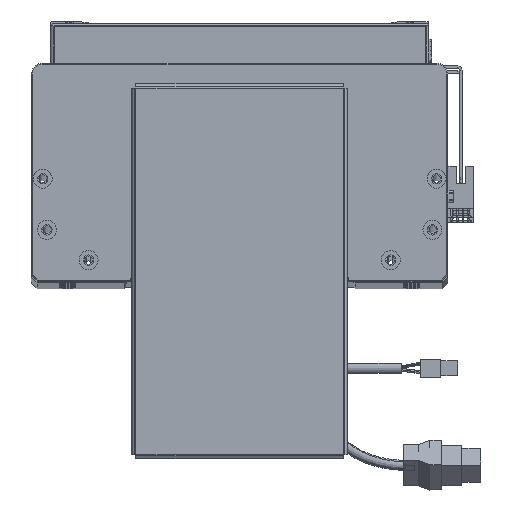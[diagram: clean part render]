
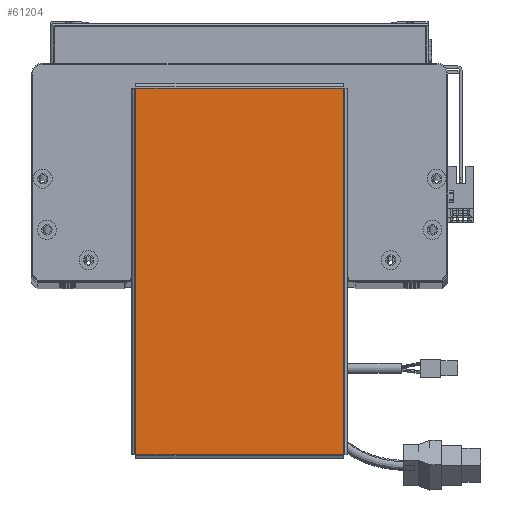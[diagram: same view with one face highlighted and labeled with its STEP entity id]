
A CAD part, top view. The second image highlights one B-rep face of the part: STEP entity #61204.
In plain terms, the highlighted planar face has unit normal (0, 0, 1).
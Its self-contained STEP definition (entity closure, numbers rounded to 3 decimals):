
#1567 = LINE ( 'NONE', #25578, #49623 ) ;
#2521 = LINE ( 'NONE', #67591, #40420 ) ;
#3527 = VECTOR ( 'NONE', #22033, 1000. ) ;
#3968 = CARTESIAN_POINT ( 'NONE',  ( -96.763, 54.763, 0. ) ) ;
#5309 = DIRECTION ( 'NONE',  ( 1., 0., 0. ) ) ;
#6095 = EDGE_CURVE ( 'NONE', #68899, #69286, #2521, .T. ) ;
#7676 = EDGE_CURVE ( 'NONE', #64547, #24777, #1567, .T. ) ;
#8655 = FACE_OUTER_BOUND ( 'NONE', #14939, .T. ) ;
#9342 = DIRECTION ( 'NONE',  ( 0., -1., 0. ) ) ;
#10551 = LINE ( 'NONE', #49298, #50111 ) ;
#14939 = EDGE_LOOP ( 'NONE', ( #16169, #48283, #38826, #33337 ) ) ;
#16169 = ORIENTED_EDGE ( 'NONE', *, *, #53686, .T. ) ;
#20889 = CARTESIAN_POINT ( 'NONE',  ( 0., 0., 0. ) ) ;
#21128 = DIRECTION ( 'NONE',  ( 0., 0., 1. ) ) ;
#22033 = DIRECTION ( 'NONE',  ( -1., 0., 0. ) ) ;
#22734 = CARTESIAN_POINT ( 'NONE',  ( 96.793, 54.763, 0. ) ) ;
#24777 = VERTEX_POINT ( 'NONE', #49985 ) ;
#24782 = CARTESIAN_POINT ( 'NONE',  ( 96.763, -54.763, 0. ) ) ;
#25578 = CARTESIAN_POINT ( 'NONE',  ( -96.763, 54.793, 0. ) ) ;
#30220 = EDGE_CURVE ( 'NONE', #69286, #64547, #38045, .T. ) ;
#33337 = ORIENTED_EDGE ( 'NONE', *, *, #7676, .T. ) ;
#38045 = LINE ( 'NONE', #22734, #3527 ) ;
#38826 = ORIENTED_EDGE ( 'NONE', *, *, #30220, .T. ) ;
#40420 = VECTOR ( 'NONE', #67359, 1000. ) ;
#48283 = ORIENTED_EDGE ( 'NONE', *, *, #6095, .T. ) ;
#49298 = CARTESIAN_POINT ( 'NONE',  ( -96.793, -54.763, 0. ) ) ;
#49623 = VECTOR ( 'NONE', #9342, 1000. ) ;
#49985 = CARTESIAN_POINT ( 'NONE',  ( -96.763, -54.763, 0. ) ) ;
#50111 = VECTOR ( 'NONE', #5309, 1000. ) ;
#51075 = CARTESIAN_POINT ( 'NONE',  ( 96.763, 54.763, 0. ) ) ;
#53562 = PLANE ( 'NONE',  #62766 ) ;
#53686 = EDGE_CURVE ( 'NONE', #24777, #68899, #10551, .T. ) ;
#58112 = DIRECTION ( 'NONE',  ( 1., 0., 0. ) ) ;
#61204 = ADVANCED_FACE ( 'NONE', ( #8655 ), #53562, .T. ) ;
#62766 = AXIS2_PLACEMENT_3D ( 'NONE', #20889, #21128, #58112 ) ;
#64547 = VERTEX_POINT ( 'NONE', #3968 ) ;
#67359 = DIRECTION ( 'NONE',  ( 0., 1., 0. ) ) ;
#67591 = CARTESIAN_POINT ( 'NONE',  ( 96.763, -54.793, 0. ) ) ;
#68899 = VERTEX_POINT ( 'NONE', #24782 ) ;
#69286 = VERTEX_POINT ( 'NONE', #51075 ) ;
